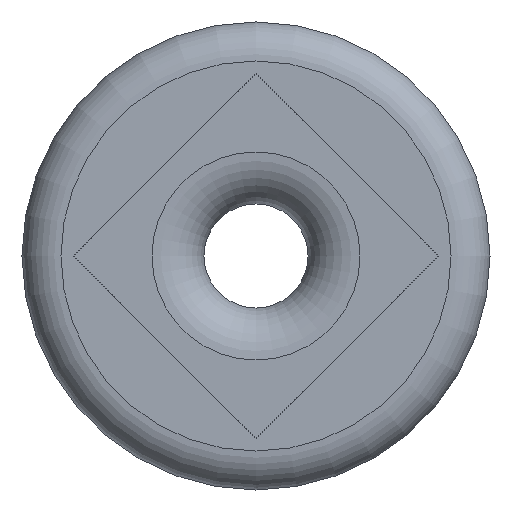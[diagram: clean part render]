
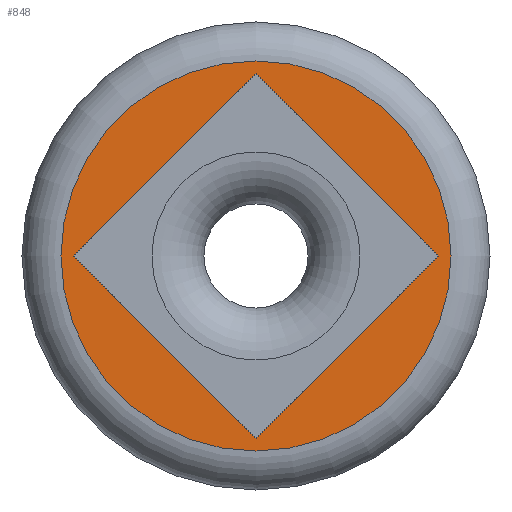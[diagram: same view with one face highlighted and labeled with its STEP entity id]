
A CAD part, front view. The second image highlights one B-rep face of the part: STEP entity #848.
In plain terms, the highlighted planar face has unit normal (0, -1, 0).
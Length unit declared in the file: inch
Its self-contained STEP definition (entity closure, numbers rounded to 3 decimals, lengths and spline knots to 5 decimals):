
#19=FACE_BOUND('',#156,.T.);
#24=PLANE('',#935);
#61=CIRCLE('',#933,0.75);
#62=CIRCLE('',#934,0.75);
#106=FACE_OUTER_BOUND('',#155,.T.);
#155=EDGE_LOOP('',(#743,#744));
#156=EDGE_LOOP('',(#745,#746,#747,#748));
#250=LINE('',#4248,#292);
#251=LINE('',#4250,#293);
#252=LINE('',#4252,#294);
#253=LINE('',#4253,#295);
#292=VECTOR('',#1111,0.3937);
#293=VECTOR('',#1112,0.3937);
#294=VECTOR('',#1113,0.3937);
#295=VECTOR('',#1114,0.3937);
#378=VERTEX_POINT('',#4240);
#379=VERTEX_POINT('',#4242);
#380=VERTEX_POINT('',#4246);
#381=VERTEX_POINT('',#4247);
#382=VERTEX_POINT('',#4249);
#383=VERTEX_POINT('',#4251);
#502=EDGE_CURVE('',#378,#379,#61,.T.);
#503=EDGE_CURVE('',#379,#378,#62,.T.);
#504=EDGE_CURVE('',#380,#381,#250,.T.);
#505=EDGE_CURVE('',#381,#382,#251,.T.);
#506=EDGE_CURVE('',#382,#383,#252,.T.);
#507=EDGE_CURVE('',#383,#380,#253,.T.);
#743=ORIENTED_EDGE('',*,*,#503,.F.);
#744=ORIENTED_EDGE('',*,*,#502,.F.);
#745=ORIENTED_EDGE('',*,*,#504,.T.);
#746=ORIENTED_EDGE('',*,*,#505,.T.);
#747=ORIENTED_EDGE('',*,*,#506,.T.);
#748=ORIENTED_EDGE('',*,*,#507,.T.);
#848=ADVANCED_FACE('',(#106,#19),#24,.F.);
#933=AXIS2_PLACEMENT_3D('',#4243,#1105,#1106);
#934=AXIS2_PLACEMENT_3D('',#4244,#1107,#1108);
#935=AXIS2_PLACEMENT_3D('',#4245,#1109,#1110);
#1105=DIRECTION('center_axis',(0.,1.,0.));
#1106=DIRECTION('ref_axis',(1.,0.,0.));
#1107=DIRECTION('center_axis',(0.,1.,0.));
#1108=DIRECTION('ref_axis',(1.,0.,0.));
#1109=DIRECTION('center_axis',(0.,1.,0.));
#1110=DIRECTION('ref_axis',(1.,0.,0.));
#1111=DIRECTION('',(0.707,0.,0.707));
#1112=DIRECTION('',(0.707,0.,-0.707));
#1113=DIRECTION('',(-0.707,0.,-0.707));
#1114=DIRECTION('',(-0.707,0.,0.707));
#4240=CARTESIAN_POINT('',(0.,0.,-0.75));
#4242=CARTESIAN_POINT('',(-0.75,0.,0.));
#4243=CARTESIAN_POINT('Origin',(0.,0.,0.));
#4244=CARTESIAN_POINT('Origin',(0.,0.,0.));
#4245=CARTESIAN_POINT('Origin',(0.,0.,0.));
#4246=CARTESIAN_POINT('',(-0.7,0.,0.));
#4247=CARTESIAN_POINT('',(0.,0.,0.7));
#4248=CARTESIAN_POINT('',(-0.175,0.,0.525));
#4249=CARTESIAN_POINT('',(0.7,0.,0.));
#4250=CARTESIAN_POINT('',(0.525,0.,0.175));
#4251=CARTESIAN_POINT('',(0.,0.,-0.7));
#4252=CARTESIAN_POINT('',(0.175,0.,-0.525));
#4253=CARTESIAN_POINT('',(-0.525,0.,-0.175));
